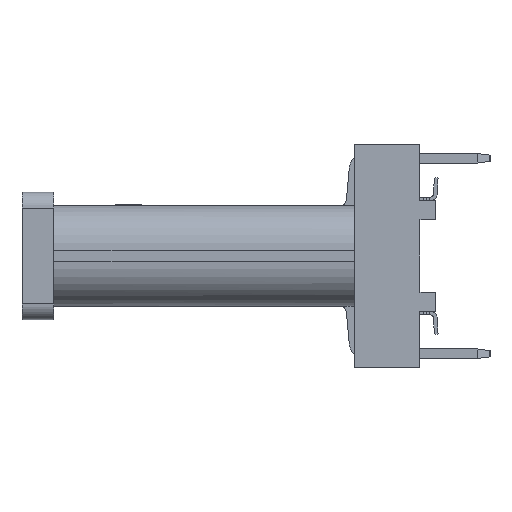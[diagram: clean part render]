
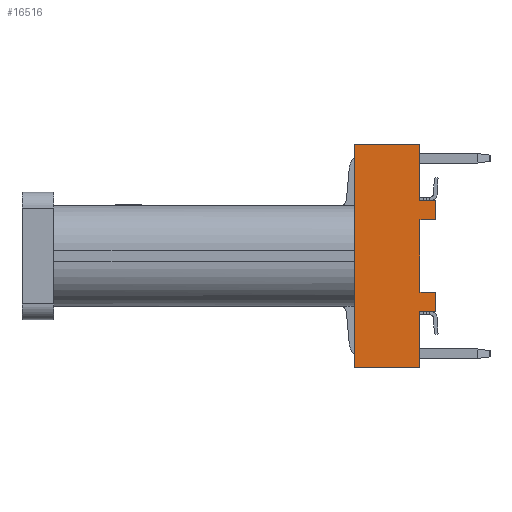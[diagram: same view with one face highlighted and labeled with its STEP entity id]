
A CAD part, left-side view. The second image highlights one B-rep face of the part: STEP entity #16516.
In plain terms, the highlighted planar face has unit normal (-1, 0, 0) as drawn and (0, 0, -1) by its records, which use the part's own axes.
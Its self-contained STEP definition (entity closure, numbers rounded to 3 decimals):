
#6966=CARTESIAN_POINT('',(-6.323,3.225,2.125));
#6967=VERTEX_POINT('',#6966);
#7059=CARTESIAN_POINT('',(-6.323,-3.775,2.125));
#7060=VERTEX_POINT('',#7059);
#7067=CARTESIAN_POINT('',(-6.323,-3.775,2.125));
#7068=DIRECTION('',(0.,1.0,0.));
#7069=VECTOR('',#7068,1.0);
#7070=LINE('',#7067,#7069);
#7071=EDGE_CURVE('no 32725',#7060,#6967,#7070,.T.);
#15897=CARTESIAN_POINT('',(-8.373,3.225,2.125));
#15898=VERTEX_POINT('',#15897);
#15899=CARTESIAN_POINT('',(-6.323,3.225,2.125));
#15900=DIRECTION('',(-1.0,-0.0,0.));
#15901=VECTOR('',#15900,1.0);
#15902=LINE('',#15899,#15901);
#15903=EDGE_CURVE('no 49096',#6967,#15898,#15902,.T.);
#16412=CARTESIAN_POINT('',(-8.373,-3.775,2.125));
#16413=VERTEX_POINT('',#16412);
#16420=CARTESIAN_POINT('',(-8.373,-3.775,2.125));
#16421=DIRECTION('',(1.0,0.0,0.));
#16422=VECTOR('',#16421,1.0);
#16423=LINE('',#16420,#16422);
#16424=EDGE_CURVE('no 22018',#16413,#7060,#16423,.T.);
#16436=CARTESIAN_POINT('',(-8.373,0.86,2.125));
#16437=VERTEX_POINT('',#16436);
#16438=CARTESIAN_POINT('',(-8.873,0.86,2.125));
#16439=VERTEX_POINT('',#16438);
#16440=CARTESIAN_POINT('',(-8.373,0.86,2.125));
#16441=DIRECTION('',(-1.0,0.0,0.));
#16442=VECTOR('',#16441,1.0);
#16443=LINE('',#16440,#16442);
#16444=EDGE_CURVE('no 75796',#16437,#16439,#16443,.T.);
#16445=ORIENTED_EDGE('no 25836',*,*,#16444,.T.);
#16446=CARTESIAN_POINT('',(-8.873,1.46,2.125));
#16447=VERTEX_POINT('',#16446);
#16448=CARTESIAN_POINT('',(-8.873,1.46,2.125));
#16449=DIRECTION('',(0.0,-1.0,0.));
#16450=VECTOR('',#16449,1.0);
#16451=LINE('',#16448,#16450);
#16452=EDGE_CURVE('no 14005',#16447,#16439,#16451,.T.);
#16453=ORIENTED_EDGE('no 19807',*,*,#16452,.F.);
#16454=CARTESIAN_POINT('',(-8.373,1.46,2.125));
#16455=VERTEX_POINT('',#16454);
#16456=CARTESIAN_POINT('',(-8.373,1.46,2.125));
#16457=DIRECTION('',(-1.0,-0.0,0.));
#16458=VECTOR('',#16457,1.0);
#16459=LINE('',#16456,#16458);
#16460=EDGE_CURVE('no 45086',#16455,#16447,#16459,.T.);
#16461=ORIENTED_EDGE('no 53110',*,*,#16460,.F.);
#16462=CARTESIAN_POINT('',(-8.373,1.46,2.125));
#16463=DIRECTION('',(-0.0,1.0,0.));
#16464=VECTOR('',#16463,1.0);
#16465=LINE('',#16462,#16464);
#16466=EDGE_CURVE('no 59461',#16455,#15898,#16465,.T.);
#16467=ORIENTED_EDGE('no 8797',*,*,#16466,.T.);
#16468=ORIENTED_EDGE('no 49875',*,*,#15903,.F.);
#16469=ORIENTED_EDGE('no 7262',*,*,#7071,.F.);
#16470=ORIENTED_EDGE('no 2089',*,*,#16424,.F.);
#16471=CARTESIAN_POINT('',(-8.373,-2.01,2.125));
#16472=VERTEX_POINT('',#16471);
#16473=CARTESIAN_POINT('',(-8.373,-2.01,2.125));
#16474=DIRECTION('',(0.,-1.0,0.));
#16475=VECTOR('',#16474,1.0);
#16476=LINE('',#16473,#16475);
#16477=EDGE_CURVE('no 37480',#16472,#16413,#16476,.T.);
#16478=ORIENTED_EDGE('no 48414',*,*,#16477,.F.);
#16479=CARTESIAN_POINT('',(-8.873,-2.01,2.125));
#16480=VERTEX_POINT('',#16479);
#16481=CARTESIAN_POINT('',(-8.373,-2.01,2.125));
#16482=DIRECTION('',(-1.0,0.0,0.));
#16483=VECTOR('',#16482,1.0);
#16484=LINE('',#16481,#16483);
#16485=EDGE_CURVE('no 61739',#16472,#16480,#16484,.T.);
#16486=ORIENTED_EDGE('no 67476',*,*,#16485,.T.);
#16487=CARTESIAN_POINT('',(-8.873,-1.41,2.125));
#16488=VERTEX_POINT('',#16487);
#16489=CARTESIAN_POINT('',(-8.873,-1.41,2.125));
#16490=DIRECTION('',(-0.0,-1.0,0.));
#16491=VECTOR('',#16490,1.0);
#16492=LINE('',#16489,#16491);
#16493=EDGE_CURVE('no 57967',#16488,#16480,#16492,.T.);
#16494=ORIENTED_EDGE('no 3626',*,*,#16493,.F.);
#16495=CARTESIAN_POINT('',(-8.373,-1.41,2.125));
#16496=VERTEX_POINT('',#16495);
#16497=CARTESIAN_POINT('',(-8.373,-1.41,2.125));
#16498=DIRECTION('',(-1.0,-0.0,0.));
#16499=VECTOR('',#16498,1.0);
#16500=LINE('',#16497,#16499);
#16501=EDGE_CURVE('no 31221',#16496,#16488,#16500,.T.);
#16502=ORIENTED_EDGE('no 35163',*,*,#16501,.F.);
#16503=CARTESIAN_POINT('',(-8.373,0.86,2.125));
#16504=DIRECTION('',(0.,-1.0,0.));
#16505=VECTOR('',#16504,1.0);
#16506=LINE('',#16503,#16505);
#16507=EDGE_CURVE('no 30909',#16437,#16496,#16506,.T.);
#16508=ORIENTED_EDGE('no 25949',*,*,#16507,.F.);
#16509=EDGE_LOOP('',(
    #16445,#16453,#16461,#16467,#16468,#16469,#16470,#16478,#16486,#16494,
    #16502,#16508));
#16510=FACE_OUTER_BOUND('',#16509,.T.);
#16511=CARTESIAN_POINT('',(-5.857,2.595,2.125));
#16512=DIRECTION('',(0.,0.,-1.0));
#16513=DIRECTION('',(-1.0,0.0,0.));
#16514=AXIS2_PLACEMENT_3D('',#16511,#16512,#16513);
#16515=PLANE('',#16514);
#16516=ADVANCED_FACE('no 77493',(#16510),#16515,.T.);
